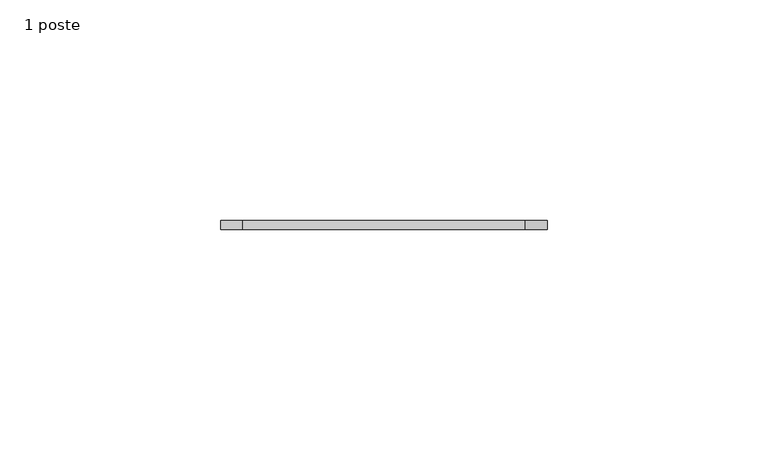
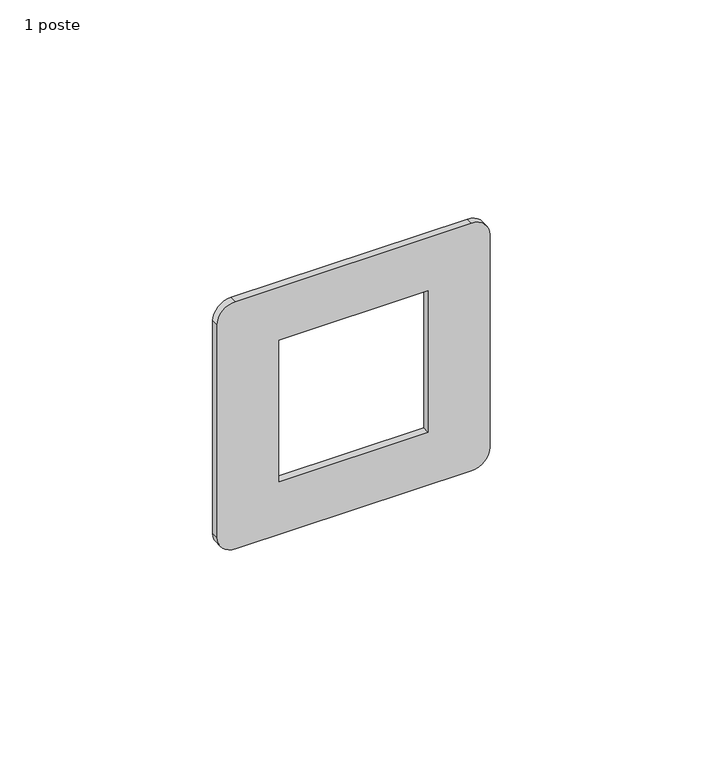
"""IFC4 building model written with IfcOpenShell, lengths in millimetres: proxy geometry, Legrand support universel-20181 : 1 poste."""

from ifc_helpers import new_model, si_unit, point, frame, frame_2d, origin, place, context, project, spatial, polyline, circle_curve, trimmed, segment, composite_curve, outline, extrude, source, transform, mapped, element, save


def proxy_1_poste_acc6c561(model_context):
    return source(origin(), model_context, "Body", "SweptSolid", [
        extrude(outline(composite_curve([segment(trimmed(circle_curve(frame_2d((280.3391435, 93.0)), 5.0), [point((285.3391435, 93.0))], [point((280.3391435, 88.0))], False, "CARTESIAN"), True, "CONTINUOUS"), segment(polyline([(280.3391435, 88.0), (219.4391435, 88.0)]), True, "CONTINUOUS"), segment(trimmed(circle_curve(frame_2d((219.4391435, 93.0)), 5.0), [point((219.4391435, 88.0))], [point((214.4391435, 93.0))], False, "CARTESIAN"), True, "CONTINUOUS"), segment(polyline([(214.4391435, 93.0), (214.4391435, 157.0)]), True, "CONTINUOUS"), segment(trimmed(circle_curve(frame_2d((219.4391435, 157.0)), 5.0), [point((214.4391435, 157.0))], [point((219.4391435, 162.0))], False, "CARTESIAN"), True, "CONTINUOUS"), segment(polyline([(219.4391435, 162.0), (280.3391435, 162.0)]), True, "CONTINUOUS"), segment(trimmed(circle_curve(frame_2d((280.3391435, 157.0)), 5.0), [point((280.3391435, 162.0))], [point((285.3391435, 157.0))], False, "CARTESIAN"), True, "CONTINUOUS"), segment(polyline([(285.3391435, 157.0), (285.3391435, 93.0)]), True, "CONTINUOUS")], self_intersect=False), holes=[polyline([(270.1391435, 104.75), (270.1391435, 145.25), (229.6391435, 145.25), (229.6391435, 104.75), (270.1391435, 104.75)])]), frame((0.0, 101.5, 0.0), z_axis=(0.0, 1.0, 0.0), x_axis=(0.0, 0.0, 1.0)), (0.0, 0.0, 1.0), 2.0),
    ])


if __name__ == "__main__":
    model = new_model("IFC4")
    model_context = context("Model", 3, world=origin())
    ifc_project = project(units=[si_unit("LENGTHUNIT", "METRE", prefix="MILLI")], contexts=[model_context])
    site = spatial("IfcSite", under=ifc_project)
    building = spatial("IfcBuilding", under=site)
    placement = place(None, origin())
    proxy_1_poste_shape = proxy_1_poste_acc6c561(model_context)
    element("IfcBuildingElementProxy", 1, Name="Legrand support universel-20181 : 1 poste", ObjectType="Legrand support universel-20181 : 1 poste", at=placement, inside=building, context=model_context, shape_type="MappedRepresentation", body=[
        mapped(proxy_1_poste_shape, transform((0.0, 0.0, 0.0), x_axis=(1.0, 0.0, 0.0), y_axis=(0.0, 1.0, 0.0), z_axis=(0.0, 0.0, 1.0))),
    ])
    save(model, "model.ifc")
